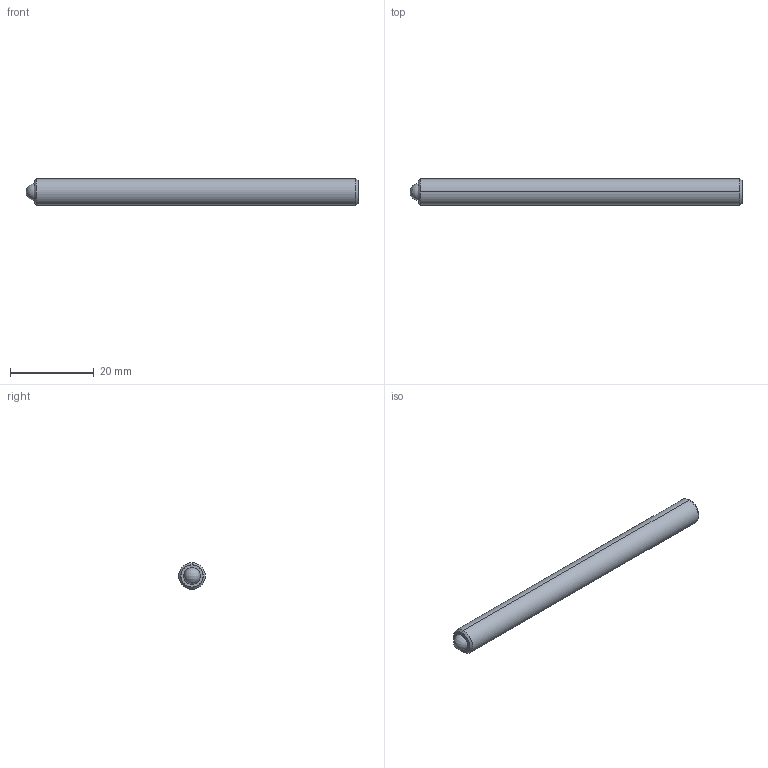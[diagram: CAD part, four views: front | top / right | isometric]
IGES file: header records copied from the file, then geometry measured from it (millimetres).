
Start section: SolidWorks IGES file using analytic representation for surfaces
Global section: file name: C:\Users\workpc\Desktop\KMA Solidworks\TS250-80-3125.IGS; native system: SolidWorks 2013; preprocessor: SolidWorks 2013; author: workpc; date: 130211.161040; units: inch
Bounding box: 79.36 x 6.35 x 6.35 mm (x, y, z)
Surface area: 1687.7 mm2 (no closed solid volume)
Topology: 0 solids, 0 shells, 20 faces, 204 edges, 200 vertices
Faces by surface type: revolution 10, bspline 10
